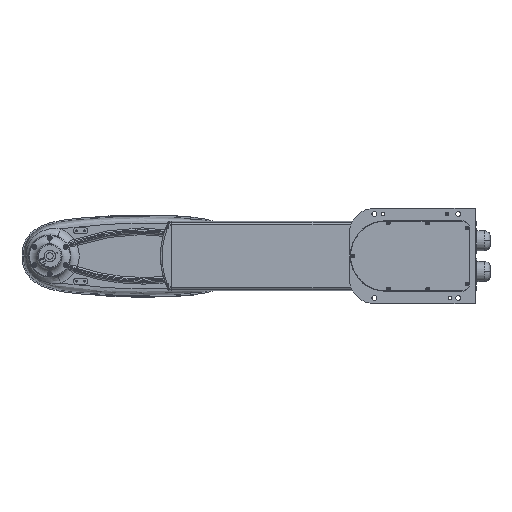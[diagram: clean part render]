
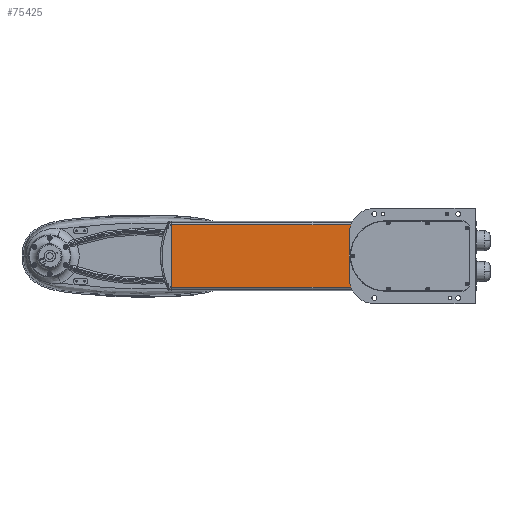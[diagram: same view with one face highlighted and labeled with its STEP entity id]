
A CAD part, front view. The second image highlights one B-rep face of the part: STEP entity #75425.
In plain terms, the highlighted planar face has unit normal (0, -1, 0).
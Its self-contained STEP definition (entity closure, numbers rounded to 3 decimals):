
#7906 = EDGE_LOOP ( 'NONE', ( #69401, #99252 ) ) ;
#11370 = CARTESIAN_POINT ( 'NONE',  ( 55.584, -30., -455. ) ) ;
#13857 = FACE_BOUND ( 'NONE', #7906, .T. ) ;
#13887 = DIRECTION ( 'NONE',  ( 0., -1., 0. ) ) ;
#16491 = CARTESIAN_POINT ( 'NONE',  ( 0., -30., -72.5 ) ) ;
#18023 = CARTESIAN_POINT ( 'NONE',  ( 0., -30., -455. ) ) ;
#18115 = CARTESIAN_POINT ( 'NONE',  ( -55.584, -30., -455. ) ) ;
#18206 = ORIENTED_EDGE ( 'NONE', *, *, #28307, .T. ) ;
#19706 = LINE ( 'NONE', #44826, #85620 ) ;
#19766 = CARTESIAN_POINT ( 'NONE',  ( -11.364, -30., -455. ) ) ;
#21660 = ORIENTED_EDGE ( 'NONE', *, *, #163835, .T. ) ;
#27213 = CARTESIAN_POINT ( 'NONE',  ( -55.584, -30., -455. ) ) ;
#28307 = EDGE_CURVE ( 'NONE', #102822, #138940, #169954, .T. ) ;
#33036 = ORIENTED_EDGE ( 'NONE', *, *, #85966, .T. ) ;
#36869 = VECTOR ( 'NONE', #57815, 1000. ) ;
#44522 = DIRECTION ( 'NONE',  ( 0., -1., 0. ) ) ;
#44826 = CARTESIAN_POINT ( 'NONE',  ( 0., -30., -455. ) ) ;
#48098 = EDGE_CURVE ( 'NONE', #108156, #50476, #19706, .T. ) ;
#50476 = VERTEX_POINT ( 'NONE', #19766 ) ;
#52775 = ORIENTED_EDGE ( 'NONE', *, *, #48098, .T. ) ;
#54334 = EDGE_CURVE ( 'NONE', #131659, #138940, #81535, .T. ) ;
#56091 = VECTOR ( 'NONE', #107685, 1000. ) ;
#57815 = DIRECTION ( 'NONE',  ( 0., 0., -1. ) ) ;
#69401 = ORIENTED_EDGE ( 'NONE', *, *, #171167, .F. ) ;
#75425 = ADVANCED_FACE ( 'NONE', ( #13857, #81749 ), #162416, .T. ) ;
#79522 = CARTESIAN_POINT ( 'NONE',  ( 0., -30., -72.5 ) ) ;
#81535 = LINE ( 'NONE', #116583, #98286 ) ;
#81749 = FACE_OUTER_BOUND ( 'NONE', #137387, .T. ) ;
#84003 = ORIENTED_EDGE ( 'NONE', *, *, #54334, .F. ) ;
#85620 = VECTOR ( 'NONE', #97796, 1000. ) ;
#85966 = EDGE_CURVE ( 'NONE', #131659, #108156, #167248, .T. ) ;
#90596 = CARTESIAN_POINT ( 'NONE',  ( -55., -30., -72.5 ) ) ;
#93252 = CARTESIAN_POINT ( 'NONE',  ( 55.584, -30., -5. ) ) ;
#97796 = DIRECTION ( 'NONE',  ( 1., 0., 0. ) ) ;
#98286 = VECTOR ( 'NONE', #142022, 1000. ) ;
#99252 = ORIENTED_EDGE ( 'NONE', *, *, #138299, .F. ) ;
#102087 = LINE ( 'NONE', #164591, #164300 ) ;
#102371 = VERTEX_POINT ( 'NONE', #148864 ) ;
#102822 = VERTEX_POINT ( 'NONE', #11370 ) ;
#106095 = DIRECTION ( 'NONE',  ( 1., 0., 0. ) ) ;
#107685 = DIRECTION ( 'NONE',  ( 0., 0., 1. ) ) ;
#108156 = VERTEX_POINT ( 'NONE', #27213 ) ;
#115983 = AXIS2_PLACEMENT_3D ( 'NONE', #16491, #122023, #121453 ) ;
#116583 = CARTESIAN_POINT ( 'NONE',  ( 0., -30., -5. ) ) ;
#118003 = VERTEX_POINT ( 'NONE', #90596 ) ;
#121453 = DIRECTION ( 'NONE',  ( 1., 0., 0. ) ) ;
#122023 = DIRECTION ( 'NONE',  ( 0., -1., 0. ) ) ;
#122344 = CARTESIAN_POINT ( 'NONE',  ( 55.584, -30., -5. ) ) ;
#130925 = AXIS2_PLACEMENT_3D ( 'NONE', #79522, #13887, #106095 ) ;
#131659 = VERTEX_POINT ( 'NONE', #151066 ) ;
#137387 = EDGE_LOOP ( 'NONE', ( #84003, #33036, #52775, #21660, #18206 ) ) ;
#138299 = EDGE_CURVE ( 'NONE', #118003, #102371, #161911, .T. ) ;
#138940 = VERTEX_POINT ( 'NONE', #122344 ) ;
#139824 = CIRCLE ( 'NONE', #115983, 55. ) ;
#142022 = DIRECTION ( 'NONE',  ( 1., 0., 0. ) ) ;
#148864 = CARTESIAN_POINT ( 'NONE',  ( 55., -30., -72.5 ) ) ;
#149553 = DIRECTION ( 'NONE',  ( 1., 0., 0. ) ) ;
#150213 = DIRECTION ( 'NONE',  ( 1., 0., 0. ) ) ;
#151066 = CARTESIAN_POINT ( 'NONE',  ( -55.584, -30., -5. ) ) ;
#161911 = CIRCLE ( 'NONE', #130925, 55. ) ;
#162416 = PLANE ( 'NONE',  #167890 ) ;
#163835 = EDGE_CURVE ( 'NONE', #50476, #102822, #102087, .T. ) ;
#164300 = VECTOR ( 'NONE', #149553, 1000. ) ;
#164591 = CARTESIAN_POINT ( 'NONE',  ( 0., -30., -455. ) ) ;
#167248 = LINE ( 'NONE', #18115, #36869 ) ;
#167890 = AXIS2_PLACEMENT_3D ( 'NONE', #18023, #44522, #150213 ) ;
#169954 = LINE ( 'NONE', #93252, #56091 ) ;
#171167 = EDGE_CURVE ( 'NONE', #102371, #118003, #139824, .T. ) ;
